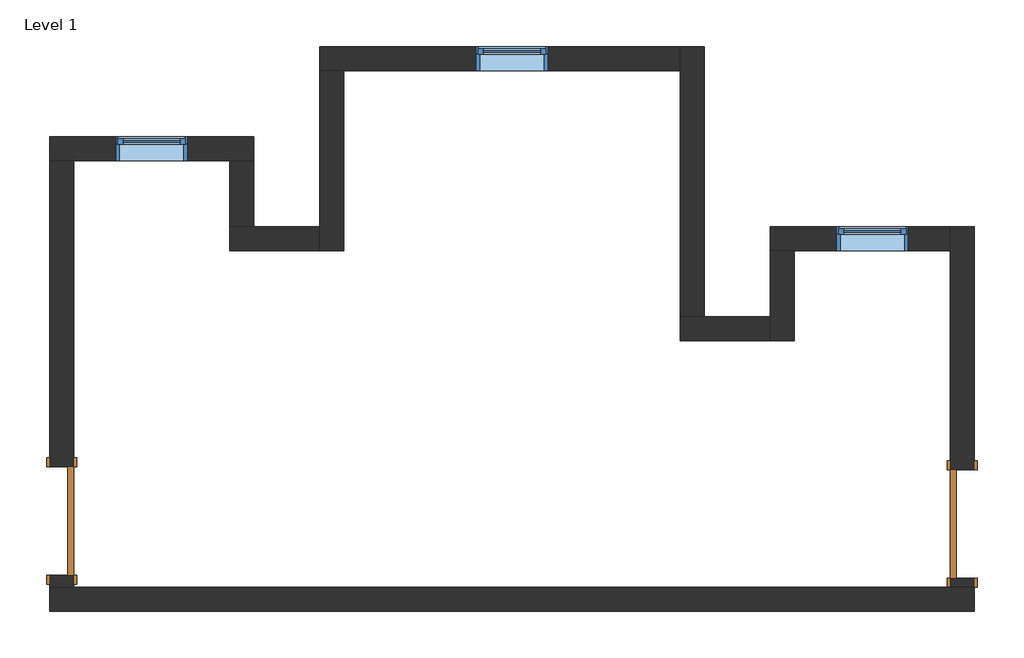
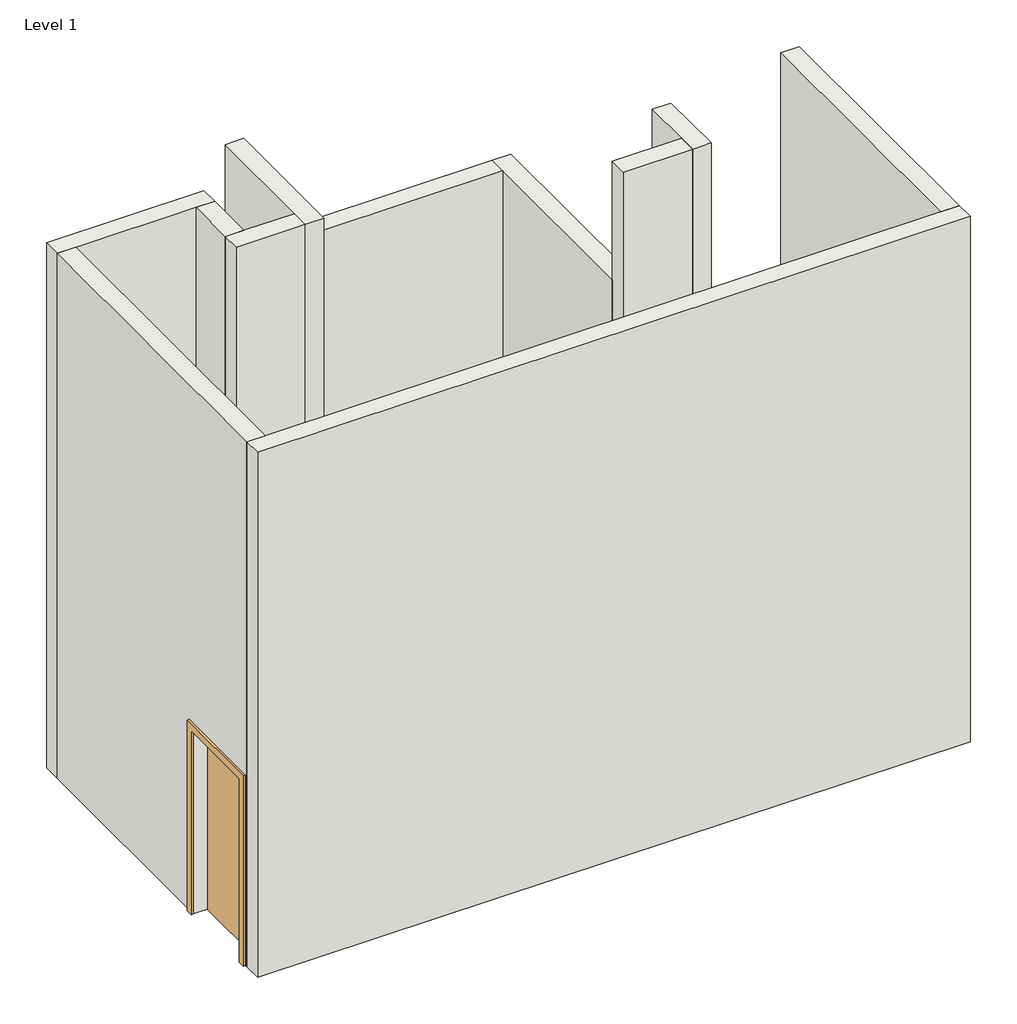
# One storey: 12 walls, 3 windows, 2 doors.
"""IFC4 building model written with IfcOpenShell, lengths in millimetres."""

import ifcopenshell
import ifcopenshell.guid

model = None  # the IFC model being written
_history = None  # IfcOwnerHistory: only IFC2X3 demands one
_inside = {}  # id of a spatial element -> (the spatial element, [elements in it])
_under = {}  # id of a project, library or spatial element -> (it, [spatial elements below it])
_declared = {}  # id of a project -> (the project, [libraries it declares])
_typed = {}  # id of a type object -> (the type object, [elements of that type])
_made_of = {}  # id of a material, layer set ... -> (it, [elements and type objects made of it])


def new_model(schema):
    """Start an empty IFC model of exactly this schema.

    Asked for "IFC4X3", IfcOpenShell would pick the latest addendum, in which some entities
    have other attributes; the version numbers below select the first issue.
    IFC2X3 requires an IfcOwnerHistory on every rooted entity: one is made here for all.
    """
    global model, _history
    if schema == "IFC4X3":
        model = ifcopenshell.file(schema_version=(4, 3, 0, 0))
    else:
        model = ifcopenshell.file(schema=schema)
    _inside.clear()
    _under.clear()
    _declared.clear()
    _typed.clear()
    _made_of.clear()
    _history = None
    if model.schema == "IFC2X3":
        org = make("IfcOrganization", Name="unknown")
        user = make(
            "IfcPersonAndOrganization",
            ThePerson=make("IfcPerson", FamilyName="unknown"),
            TheOrganization=org,
        )
        app = make(
            "IfcApplication",
            ApplicationDeveloper=org,
            Version="unknown",
            ApplicationFullName="unknown",
            ApplicationIdentifier="unknown",
        )
        _history = make(
            "IfcOwnerHistory",
            OwningUser=user,
            OwningApplication=app,
            ChangeAction="ADDED",
            CreationDate=0,
        )
    return model


def make(cls, **values):
    """One entity of the class cls with the attributes given. An attribute that is None is left unset."""
    return model.create_entity(
        cls, **{name: value for name, value in values.items() if value is not None}
    )


def rooted(cls, **values):
    """An entity with a GlobalId (a new one), such as an element, a storey or a relation."""
    return make(cls, GlobalId=ifcopenshell.guid.new(), OwnerHistory=_history, **values)


def si_unit(unit_type, name, prefix=None):
    """IfcSIUnit, for example si_unit("LENGTHUNIT", "METRE", prefix="MILLI")."""
    return make("IfcSIUnit", UnitType=unit_type, Prefix=prefix, Name=name)


def assignment(units):
    """IfcUnitAssignment: the units of a project."""
    return None if units is None else make("IfcUnitAssignment", Units=units)


def point(xyz):
    """IfcCartesianPoint."""
    return None if xyz is None else make("IfcCartesianPoint", Coordinates=xyz)


def direction(xyz):
    """IfcDirection."""
    return None if xyz is None else make("IfcDirection", DirectionRatios=xyz)


def frame(location, z_axis=None, x_axis=None):
    """IfcAxis2Placement3D, a coordinate frame: its origin and axes. An axis left out is left unset."""
    return make(
        "IfcAxis2Placement3D",
        Location=point(location),
        Axis=direction(z_axis),
        RefDirection=direction(x_axis),
    )


def origin():
    """The frame at (0, 0, 0) with its axes left unset."""
    return frame((0.0, 0.0, 0.0))


def origin_with_axes():
    """The frame at (0, 0, 0) with the z axis (0, 0, 1) and the x axis (1, 0, 0) written out."""
    return frame((0.0, 0.0, 0.0), z_axis=(0.0, 0.0, 1.0), x_axis=(1.0, 0.0, 0.0))


def place(relative_to, where):
    """IfcLocalPlacement: puts the frame where relative to a parent placement (None: the world)."""
    return make(
        "IfcLocalPlacement", PlacementRelTo=relative_to, RelativePlacement=where
    )


def context(
    kind, dimensions, precision=None, world=None, true_north=None, identifier=None
):
    """IfcGeometricRepresentationContext, for example the 3D "Model" context."""
    return make(
        "IfcGeometricRepresentationContext",
        ContextIdentifier=identifier,
        ContextType=kind,
        CoordinateSpaceDimension=dimensions,
        Precision=precision,
        WorldCoordinateSystem=world,
        TrueNorth=true_north,
    )


def project(units=None, contexts=None):
    """IfcProject with its units and contexts."""
    return rooted(
        "IfcProject",
        Name="project",
        RepresentationContexts=contexts,
        UnitsInContext=assignment(units),
    )


def spatial(cls, under=None, at=None, **own):
    """A site, building, storey or space (cls), placed at a placement, below another one or the project."""
    s = rooted(cls, ObjectPlacement=at, **own)
    if under is not None:
        _under.setdefault(under.id(), (under, []))[1].append(s)
    return s


def polyline(points):
    """IfcPolyline through the points."""
    return make("IfcPolyline", Points=[point(p) for p in points])


def outline(outer, holes=None, kind="AREA"):
    """IfcArbitraryClosedProfileDef: a profile drawn as a closed curve; with holes, ...WithVoids."""
    if holes is None:
        return make("IfcArbitraryClosedProfileDef", ProfileType=kind, OuterCurve=outer)
    return make(
        "IfcArbitraryProfileDefWithVoids",
        ProfileType=kind,
        OuterCurve=outer,
        InnerCurves=holes,
    )


def extrude(swept, where, along, depth):
    """IfcExtrudedAreaSolid: the profile swept, set in the frame where, extruded along a direction by depth."""
    return make(
        "IfcExtrudedAreaSolid",
        SweptArea=swept,
        Position=where,
        ExtrudedDirection=direction(along),
        Depth=depth,
    )


def faces_of(points, faces, orient=None, outer=None):
    """IfcFace entities. A face is a list of loops; a loop is a list of indices into points, from 0.

    orient and outer hold one flag for each loop. By default every Orientation is true, the
    first loop of a face is its IfcFaceOuterBound and the others are IfcFaceBound.
    """
    made = []
    for i, loops in enumerate(faces):
        bounds = []
        for j, loop in enumerate(loops):
            is_outer = j == 0 if outer is None else outer[i][j]
            bounds.append(
                make(
                    "IfcFaceOuterBound" if is_outer else "IfcFaceBound",
                    Bound=make("IfcPolyLoop", Polygon=[points[k] for k in loop]),
                    Orientation=True if orient is None else orient[i][j],
                )
            )
        made.append(make("IfcFace", Bounds=bounds))
    return made


def faceted_brep(points, faces, orient=None, outer=None, voids=None):
    """IfcFacetedBrep: a solid bounded by flat faces; with voids (closed shells), ...WithVoids."""
    shared = [point(p) for p in points]
    hull = make("IfcClosedShell", CfsFaces=faces_of(shared, faces, orient, outer))
    if voids is None:
        return make("IfcFacetedBrep", Outer=hull)
    return make(
        "IfcFacetedBrepWithVoids",
        Outer=hull,
        Voids=[
            make(cls, CfsFaces=faces_of(shared, fs, o, b)) for cls, fs, o, b in voids
        ],
    )


def shape(context_of_items, identifier, shape_type, items):
    """IfcShapeRepresentation: the items that make up one representation, for example the "Body"."""
    return make(
        "IfcShapeRepresentation",
        ContextOfItems=context_of_items,
        RepresentationIdentifier=identifier,
        RepresentationType=shape_type,
        Items=items,
    )


def source(mapping_origin, context_of_items, identifier, shape_type, items):
    """IfcRepresentationMap: a shape defined once, which mapped items show again and again."""
    return make(
        "IfcRepresentationMap",
        MappingOrigin=mapping_origin,
        MappedRepresentation=shape(context_of_items, identifier, shape_type, items),
    )


def transform(
    local_origin,
    x_axis=None,
    y_axis=None,
    z_axis=None,
    scale=None,
    scale2=None,
    scale3=None,
    uniform=True,
):
    """IfcCartesianTransformationOperator3D, or its non-uniform kind. x_axis, y_axis, z_axis: its Axis1, 2, 3."""
    if uniform:
        return make(
            "IfcCartesianTransformationOperator3D",
            Axis1=direction(x_axis),
            Axis2=direction(y_axis),
            LocalOrigin=point(local_origin),
            Scale=scale,
            Axis3=direction(z_axis),
        )
    return make(
        "IfcCartesianTransformationOperator3DnonUniform",
        Axis1=direction(x_axis),
        Axis2=direction(y_axis),
        LocalOrigin=point(local_origin),
        Scale=scale,
        Axis3=direction(z_axis),
        Scale2=scale2,
        Scale3=scale3,
    )


def mapped(mapping_source, mapping_target):
    """IfcMappedItem: shows the shape of a source again, moved by a transform."""
    return make(
        "IfcMappedItem", MappingSource=mapping_source, MappingTarget=mapping_target
    )


def made_of(thing, what):
    """Note that an element or type object is made of a material, layer set ...; save() writes the relation."""
    if what is not None:
        _made_of.setdefault(what.id(), (what, []))[1].append(thing)
    return thing


def element(
    cls,
    number,
    at=None,
    inside=None,
    cuts=None,
    type_object=None,
    material=None,
    context=None,
    identifier="Body",
    shape_type=None,
    held_by="IfcProductDefinitionShape",
    body=None,
    shapes=None,
    **own,
):
    """One element of the class cls, such as IfcWall. Its Tag is "e" and its number.

    at: its placement. inside: the storey or other place that contains it. cuts: it is an
    opening in that element (IfcRelVoidsElement). A single representation is given by context,
    identifier, shape_type and body (its items); several are given by shapes. held_by: the class
    of the entity that holds the representations. save() writes the other relations.
    """
    e = rooted(cls, Tag="e%d" % number, ObjectPlacement=at, **own)
    if body is not None:
        shapes = [shape(context, identifier, shape_type, body)]
    if shapes is not None:
        e.Representation = make(held_by, Representations=shapes)
    if inside is not None:
        _inside.setdefault(inside.id(), (inside, []))[1].append(e)
    if cuts is not None:
        rooted(
            "IfcRelVoidsElement", RelatingBuildingElement=cuts, RelatedOpeningElement=e
        )
    if type_object is not None:
        _typed.setdefault(type_object.id(), (type_object, []))[1].append(e)
    return made_of(e, material)


def aggregate(whole, parts):
    """IfcRelAggregates: a whole, such as a stair, and the parts it consists of."""
    return rooted("IfcRelAggregates", RelatingObject=whole, RelatedObjects=parts)


def save(model, path):
    """Write the relations noted so far, then the file.

    IfcRelAggregates (storeys below a building ...), IfcRelContainedInSpatialStructure (elements
    in a storey), IfcRelDefinesByType, IfcRelAssociatesMaterial and IfcRelDeclares: one each for
    every whole, place, type object, material and project.
    """
    for whole, parts in _under.values():
        aggregate(whole, parts)
    for where, things in _inside.values():
        rooted(
            "IfcRelContainedInSpatialStructure",
            RelatedElements=things,
            RelatingStructure=where,
        )
    for kind, things in _typed.values():
        rooted("IfcRelDefinesByType", RelatedObjects=things, RelatingType=kind)
    for what, things in _made_of.values():
        rooted("IfcRelAssociatesMaterial", RelatedObjects=things, RelatingMaterial=what)
    for by, libraries in _declared.values():
        rooted("IfcRelDeclares", RelatingContext=by, RelatedDefinitions=libraries)
    model.write(path)


def door_54dd4da4(model_context):
    return source(origin(), model_context, "Body", "SweptSolid", [
        extrude(outline(polyline([(2209.8, -533.4), (0.0, -533.4), (0.0, -457.2), (2133.6, -457.2), (2133.6, 457.2), (0.0, 457.2), (0.0, 533.4), (2209.8, 533.4), (2209.8, -533.4)])), frame((0.0, 101.6, 0.0), z_axis=(0.0, 1.0, 0.0), x_axis=(0.0, 0.0, 1.0)), (0.0, 0.0, 1.0), 25.4),
        extrude(outline(polyline([(2209.8, 533.4), (2209.8, -533.4), (0.0, -533.4), (0.0, -457.2), (2133.6, -457.2), (2133.6, 457.2), (0.0, 457.2), (0.0, 533.4), (2209.8, 533.4)])), frame((0.0, -127.0, 0.0), z_axis=(0.0, 1.0, 0.0), x_axis=(0.0, 0.0, 1.0)), (0.0, 0.0, 1.0), 25.4),
        extrude(outline(polyline([(457.2, 50.8), (-457.2, 50.8), (-457.2, 101.6), (457.2, 101.6), (457.2, 50.8)])), origin_with_axes(), (0.0, 0.0, 1.0), 2133.6),
    ])


def door_719f80de(model_context):
    return source(origin(), model_context, "Body", "SweptSolid", [
        extrude(outline(polyline([(2209.8, -533.4), (0.0, -533.4), (0.0, -457.2), (2133.6, -457.2), (2133.6, 457.2), (0.0, 457.2), (0.0, 533.4), (2209.8, 533.4), (2209.8, -533.4)])), frame((0.0, -127.0, 0.0), z_axis=(0.0, 1.0, 0.0), x_axis=(0.0, 0.0, 1.0)), (0.0, 0.0, 1.0), 25.4),
        extrude(outline(polyline([(2209.8, 533.4), (2209.8, -533.4), (0.0, -533.4), (0.0, -457.2), (2133.6, -457.2), (2133.6, 457.2), (0.0, 457.2), (0.0, 533.4), (2209.8, 533.4)])), frame((0.0, 101.6, 0.0), z_axis=(0.0, 1.0, 0.0), x_axis=(0.0, 0.0, 1.0)), (0.0, 0.0, 1.0), 25.4),
        extrude(outline(polyline([(457.2, -50.8), (457.2, -101.6), (-457.2, -101.6), (-457.2, -50.8), (457.2, -50.8)])), origin_with_axes(), (0.0, 0.0, 1.0), 2133.6),
    ])


def window_80bd9af0(model_context):
    return source(origin(), model_context, "Body", "SweptSolid", [
        extrude(outline(polyline([(203.2, 53.975), (-279.4, 53.975), (-279.4, 66.675), (203.2, 66.675), (203.2, 53.975)])), frame((0.0, 0.0, 977.9), z_axis=(0.0, 0.0, 1.0), x_axis=(1.0, 0.0, 0.0)), (0.0, 0.0, 1.0), 1092.2),
        extrude(outline(polyline([(2114.55, -323.85), (933.45, -323.85), (933.45, 247.65), (2114.55, 247.65), (2114.55, -323.85)]), holes=[polyline([(2070.1, -279.4), (2070.1, 203.2), (977.9, 203.2), (977.9, -279.4), (2070.1, -279.4)])]), frame((0.0, 38.1, 0.0), z_axis=(0.0, 1.0, 0.0), x_axis=(0.0, 0.0, 1.0)), (0.0, 0.0, 1.0), 44.45),
        extrude(outline(polyline([(2133.6, -342.9), (914.4, -342.9), (914.4, 266.7), (2133.6, 266.7), (2133.6, -342.9)]), holes=[polyline([(2101.85, -311.15), (2101.85, 234.95), (946.15, 234.95), (946.15, -311.15), (2101.85, -311.15)])]), frame((0.0, -101.6, 0.0), z_axis=(0.0, 1.0, 0.0), x_axis=(0.0, 0.0, 1.0)), (0.0, 0.0, 1.0), 139.7),
        extrude(outline(polyline([(2133.6, 266.7), (2133.6, -342.9), (914.4, -342.9), (914.4, 266.7), (2133.6, 266.7)]), holes=[polyline([(2114.55, 247.65), (933.45, 247.65), (933.45, -323.85), (2114.55, -323.85), (2114.55, 247.65)])]), frame((0.0, 38.1, 0.0), z_axis=(0.0, 1.0, 0.0), x_axis=(0.0, 0.0, 1.0)), (0.0, 0.0, 1.0), 63.5),
    ])


model = new_model("IFC4")

# Units and contexts
model_context = context("Model", 3, world=origin())
ifc_project = project(units=[si_unit("LENGTHUNIT", "METRE", prefix="MILLI")], contexts=[model_context])

# Site, building, storey
site = spatial("IfcSite", under=ifc_project)
building = spatial("IfcBuilding", under=site)
storey = spatial("IfcBuildingStorey", under=building, Name="Level 1", Elevation=0.0)

# Doors
placement = place(None, origin())
door_shape = door_54dd4da4(model_context)
element("IfcDoor", 1, ObjectType="Single-Flush : 36\" x 84\"", at=placement, inside=storey, context=model_context, shape_type="MappedRepresentation", body=[
    mapped(door_shape, transform((1543.7470165, -1358.5943471, 0.0), x_axis=(0.0, -1.0, 0.0), y_axis=(1.0, 0.0, 0.0), z_axis=(0.0, 0.0, 1.0))),
])
door_2_shape = door_719f80de(model_context)
element("IfcDoor", 2, ObjectType="Single-Flush : 36\" x 84\"", at=placement, inside=storey, context=model_context, shape_type="MappedRepresentation", body=[
    mapped(door_2_shape, transform((9163.7470165, -1383.9943471, 0.0), x_axis=(0.0, -1.0, 0.0), y_axis=(1.0, 0.0, 0.0), z_axis=(0.0, 0.0, 1.0))),
])

# Walls
element("IfcWall", 3, ObjectType="Generic - 8\"", at=placement, inside=storey, context=model_context, shape_type="Brep", body=[
    faceted_brep([(1442.1470165, -2120.5943471, 0.0), (9265.3470165, -2120.5943471, 0.0), (9265.3470165, -2120.5943471, 6096.0), (1442.1470165, -2120.5943471, 6096.0), (1442.1470165, -1917.3943471, 0.0), (1442.1470165, -1917.3943471, 6096.0), (1645.3470165, -1917.3943471, 6096.0), (9062.1470165, -1917.3943471, 6096.0), (9265.3470165, -1917.3943471, 6096.0), (9265.3470165, -1917.3943471, 0.0), (9062.1470165, -1917.3943471, 0.0), (1645.3470165, -1917.3943471, 0.0)], [[[0, 1, 2, 3]], [[4, 5, 6, 7, 8, 9, 10, 11]], [[1, 0, 4, 11, 10, 9]], [[3, 2, 8, 7, 6, 5]], [[2, 1, 9, 8]], [[0, 3, 5, 4]]]),
])
element("IfcWall", 4, ObjectType="Generic - 8\"", at=placement, inside=storey, context=model_context, shape_type="Brep", body=[
    faceted_brep([(9265.3470165, -1917.3943471, 0.0), (9265.3470165, -1841.1943471, 0.0), (9265.3470165, -1841.1943471, 2133.6), (9265.3470165, -926.7943471, 2133.6), (9265.3470165, -926.7943471, 0.0), (9265.3470165, 1130.6056529, 0.0), (9265.3470165, 1130.6056529, 6096.0), (9265.3470165, -1917.3943471, 6096.0), (9062.1470165, -1841.1943471, 2133.6), (9062.1470165, -1841.1943471, 0.0), (9062.1470165, -1917.3943471, 0.0), (9062.1470165, -1917.3943471, 6096.0), (9062.1470165, 1130.6056529, 6096.0), (9062.1470165, 1130.6056529, 3048.0), (9062.1470165, 1130.6056529, 0.0), (9062.1470165, 927.4056529, 0.0), (9062.1470165, -926.7943471, 0.0), (9062.1470165, -926.7943471, 2133.6)], [[[0, 1, 2, 3, 4, 5, 6, 7]], [[8, 9, 10, 11, 12, 13, 14, 15, 16, 17]], [[10, 9, 1, 0]], [[16, 15, 14, 5, 4]], [[7, 6, 12, 11]], [[6, 5, 14, 13, 12]], [[0, 7, 11, 10]], [[2, 1, 9, 8]], [[3, 2, 8, 17]], [[4, 3, 17, 16]]]),
])
element("IfcWall", 5, ObjectType="Generic - 8\"", at=placement, inside=storey, context=model_context, shape_type="Brep", body=[
    faceted_brep([(9062.1470165, 1130.6056529, 0.0), (7538.1470165, 1130.6056529, 0.0), (7538.1470165, 1130.6056529, 3048.0), (9062.1470165, 1130.6056529, 3048.0), (8706.5470165, 1130.6056529, 2133.6), (8096.9470165, 1130.6056529, 2133.6), (8096.9470165, 1130.6056529, 914.4), (8706.5470165, 1130.6056529, 914.4), (9062.1470165, 927.4056529, 0.0), (9062.1470165, 927.4056529, 3048.0), (7538.1470165, 927.4056529, 3048.0), (7538.1470165, 927.4056529, 0.0), (7741.3470165, 927.4056529, 0.0), (8706.5470165, 927.4056529, 2133.6), (8706.5470165, 927.4056529, 914.4), (8096.9470165, 927.4056529, 914.4), (8096.9470165, 927.4056529, 2133.6)], [[[0, 1, 2, 3], [4, 5, 6, 7]], [[8, 9, 10, 11, 12], [13, 14, 15, 16]], [[1, 0, 8, 12, 11]], [[3, 2, 10, 9]], [[2, 1, 11, 10]], [[0, 3, 9, 8]], [[14, 13, 4, 7]], [[15, 14, 7, 6]], [[16, 15, 6, 5]], [[13, 16, 5, 4]]]),
])
element("IfcWall", 6, ObjectType="Generic - 8\"", at=placement, inside=storey, context=model_context, shape_type="Brep", body=[
    faceted_brep([(7538.1470165, 927.4056529, 0.0), (7538.1470165, 368.6056529, 0.0), (7538.1470165, 165.4056529, 0.0), (7538.1470165, 165.4056529, 6096.0), (7538.1470165, 368.6056529, 6096.0), (7538.1470165, 927.4056529, 6096.0), (7538.1470165, 927.4056529, 3048.0), (7741.3470165, 927.4056529, 0.0), (7741.3470165, 927.4056529, 6096.0), (7741.3470165, 165.4056529, 6096.0), (7741.3470165, 165.4056529, 0.0)], [[[0, 1, 2, 3, 4, 5, 6]], [[7, 8, 9, 10]], [[2, 1, 0, 7, 10]], [[5, 4, 3, 9, 8]], [[3, 2, 10, 9]], [[0, 6, 5, 8, 7]]]),
])
element("IfcWall", 7, ObjectType="Generic - 8\"", at=placement, inside=storey, context=model_context, shape_type="Brep", body=[
    faceted_brep([(7538.1470165, 368.6056529, 0.0), (6979.3470165, 368.6056529, 0.0), (6776.1470165, 368.6056529, 0.0), (6776.1470165, 368.6056529, 4724.4), (6776.1470165, 368.6056529, 6096.0), (7538.1470165, 368.6056529, 6096.0), (7538.1470165, 165.4056529, 0.0), (7538.1470165, 165.4056529, 6096.0), (6776.1470165, 165.4056529, 6096.0), (6776.1470165, 165.4056529, 0.0)], [[[0, 1, 2, 3, 4, 5]], [[6, 7, 8, 9]], [[2, 1, 0, 6, 9]], [[5, 4, 8, 7]], [[4, 3, 2, 9, 8]], [[0, 5, 7, 6]]]),
])
element("IfcWall", 8, ObjectType="Generic - 8\"", at=placement, inside=storey, context=model_context, shape_type="Brep", body=[
    faceted_brep([(6979.3470165, 368.6056529, 0.0), (6979.3470165, 2654.6056529, 0.0), (6979.3470165, 2654.6056529, 4724.4), (6979.3470165, 368.6056529, 4724.4), (6776.1470165, 368.6056529, 0.0), (6776.1470165, 368.6056529, 4724.4), (6776.1470165, 2451.4056529, 4724.4), (6776.1470165, 2654.6056529, 4724.4), (6776.1470165, 2654.6056529, 0.0), (6776.1470165, 2451.4056529, 0.0)], [[[0, 1, 2, 3]], [[4, 5, 6, 7, 8, 9]], [[1, 0, 4, 9, 8]], [[3, 2, 7, 6, 5]], [[2, 1, 8, 7]], [[0, 3, 5, 4]]]),
])
element("IfcWall", 9, ObjectType="Generic - 8\"", at=placement, inside=storey, context=model_context, shape_type="Brep", body=[
    faceted_brep([(6776.1470165, 2654.6056529, 0.0), (3728.1470165, 2654.6056529, 0.0), (3728.1470165, 2654.6056529, 4724.4), (6776.1470165, 2654.6056529, 4724.4), (5658.5470165, 2654.6056529, 2133.6), (5048.9470165, 2654.6056529, 2133.6), (5048.9470165, 2654.6056529, 914.4), (5658.5470165, 2654.6056529, 914.4), (6776.1470165, 2451.4056529, 0.0), (6776.1470165, 2451.4056529, 4724.4), (3728.1470165, 2451.4056529, 4724.4), (3728.1470165, 2451.4056529, 0.0), (3931.3470165, 2451.4056529, 0.0), (5658.5470165, 2451.4056529, 2133.6), (5658.5470165, 2451.4056529, 914.4), (5048.9470165, 2451.4056529, 914.4), (5048.9470165, 2451.4056529, 2133.6)], [[[0, 1, 2, 3], [4, 5, 6, 7]], [[8, 9, 10, 11, 12], [13, 14, 15, 16]], [[1, 0, 8, 12, 11]], [[3, 2, 10, 9]], [[2, 1, 11, 10]], [[0, 3, 9, 8]], [[14, 13, 4, 7]], [[15, 14, 7, 6]], [[16, 15, 6, 5]], [[13, 16, 5, 4]]]),
])
element("IfcWall", 10, ObjectType="Generic - 8\"", at=placement, inside=storey, context=model_context, shape_type="Brep", body=[
    faceted_brep([(3728.1470165, 2451.4056529, 0.0), (3728.1470165, 1130.6056529, 0.0), (3728.1470165, 927.4056529, 0.0), (3728.1470165, 927.4056529, 6096.0), (3728.1470165, 1130.6056529, 6096.0), (3728.1470165, 2451.4056529, 6096.0), (3728.1470165, 2451.4056529, 4724.4), (3931.3470165, 2451.4056529, 0.0), (3931.3470165, 2451.4056529, 6096.0), (3931.3470165, 927.4056529, 6096.0), (3931.3470165, 927.4056529, 0.0)], [[[0, 1, 2, 3, 4, 5, 6]], [[7, 8, 9, 10]], [[2, 1, 0, 7, 10]], [[5, 4, 3, 9, 8]], [[3, 2, 10, 9]], [[0, 6, 5, 8, 7]]]),
])
element("IfcWall", 11, ObjectType="Generic - 8\"", at=placement, inside=storey, context=model_context, shape_type="Brep", body=[
    faceted_brep([(3169.3470165, 1892.6056529, 0.0), (1442.1470165, 1892.6056529, 0.0), (1442.1470165, 1892.6056529, 6096.0), (3169.3470165, 1892.6056529, 6096.0), (2610.5470165, 1892.6056529, 2133.6), (2000.9470165, 1892.6056529, 2133.6), (2000.9470165, 1892.6056529, 914.4), (2610.5470165, 1892.6056529, 914.4), (3169.3470165, 1689.4056529, 0.0), (3169.3470165, 1689.4056529, 6096.0), (2966.1470165, 1689.4056529, 6096.0), (1645.3470165, 1689.4056529, 6096.0), (1442.1470165, 1689.4056529, 6096.0), (1442.1470165, 1689.4056529, 0.0), (1645.3470165, 1689.4056529, 0.0), (2966.1470165, 1689.4056529, 0.0), (2610.5470165, 1689.4056529, 2133.6), (2610.5470165, 1689.4056529, 914.4), (2000.9470165, 1689.4056529, 914.4), (2000.9470165, 1689.4056529, 2133.6)], [[[0, 1, 2, 3], [4, 5, 6, 7]], [[8, 9, 10, 11, 12, 13, 14, 15], [16, 17, 18, 19]], [[1, 0, 8, 15, 14, 13]], [[3, 2, 12, 11, 10, 9]], [[2, 1, 13, 12]], [[0, 3, 9, 8]], [[17, 16, 4, 7]], [[18, 17, 7, 6]], [[19, 18, 6, 5]], [[16, 19, 5, 4]]]),
])
element("IfcWall", 12, ObjectType="Generic - 8\"", at=placement, inside=storey, context=model_context, shape_type="SweptSolid", body=[
    extrude(outline(polyline([(-1815.7943471, 2133.6), (-1815.7943471, 0.0), (-1917.3943471, 0.0), (-1917.3943471, 6096.0), (1689.4056529, 6096.0), (1689.4056529, 0.0), (-901.3943471, 0.0), (-901.3943471, 2133.6), (-1815.7943471, 2133.6)])), frame((1442.1470165, 0.0, 0.0), z_axis=(1.0, 0.0, 0.0), x_axis=(0.0, 1.0, 0.0)), (0.0, 0.0, 1.0), 203.2),
])
element("IfcWall", 13, ObjectType="Generic - 8\"", at=placement, inside=storey, context=model_context, shape_type="Brep", body=[
    faceted_brep([(3728.1470165, 1130.6056529, 0.0), (3169.3470165, 1130.6056529, 0.0), (2966.1470165, 1130.6056529, 0.0), (2966.1470165, 1130.6056529, 6096.0), (3169.3470165, 1130.6056529, 6096.0), (3728.1470165, 1130.6056529, 6096.0), (3728.1470165, 927.4056529, 0.0), (3728.1470165, 927.4056529, 6096.0), (2966.1470165, 927.4056529, 6096.0), (2966.1470165, 927.4056529, 0.0)], [[[0, 1, 2, 3, 4, 5]], [[6, 7, 8, 9]], [[2, 1, 0, 6, 9]], [[5, 4, 3, 8, 7]], [[3, 2, 9, 8]], [[0, 5, 7, 6]]]),
])
element("IfcWall", 14, ObjectType="Generic - 8\"", at=placement, inside=storey, context=model_context, shape_type="SweptSolid", body=[
    extrude(outline(polyline([(3169.3470165, 1689.4056529), (3169.3470165, 1130.6056529), (2966.1470165, 1130.6056529), (2966.1470165, 1689.4056529), (3169.3470165, 1689.4056529)])), origin_with_axes(), (0.0, 0.0, 1.0), 6096.0),
])

# Windows
window_shape = window_80bd9af0(model_context)
element("IfcWindow", 15, ObjectType="Fixed : 24\" x 48\"", at=placement, inside=storey, context=model_context, shape_type="MappedRepresentation", body=[
    mapped(window_shape, transform((2343.8470165, 1791.0056529, 0.0), x_axis=(1.0, 0.0, 0.0), y_axis=(0.0, 1.0, 0.0), z_axis=(0.0, 0.0, 1.0))),
])
element("IfcWindow", 16, ObjectType="Fixed : 24\" x 48\"", at=placement, inside=storey, context=model_context, shape_type="MappedRepresentation", body=[
    mapped(window_shape, transform((5391.8470165, 2553.0056529, 0.0), x_axis=(1.0, 0.0, 0.0), y_axis=(0.0, 1.0, 0.0), z_axis=(0.0, 0.0, 1.0))),
])
element("IfcWindow", 17, ObjectType="Fixed : 24\" x 48\"", at=placement, inside=storey, context=model_context, shape_type="MappedRepresentation", body=[
    mapped(window_shape, transform((8439.8470165, 1029.0056529, 0.0), x_axis=(1.0, 0.0, 0.0), y_axis=(0.0, 1.0, 0.0), z_axis=(0.0, 0.0, 1.0))),
])

save(model, "model.ifc")
